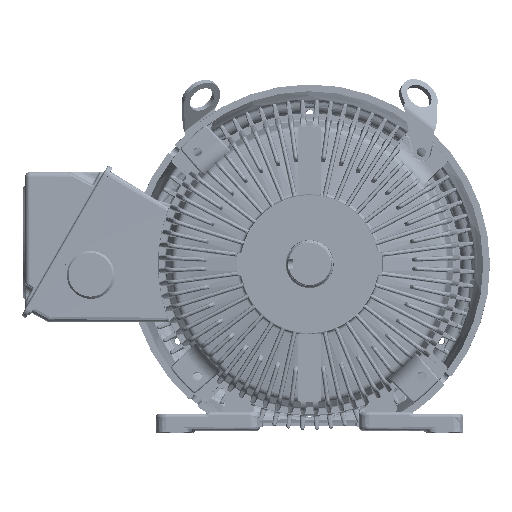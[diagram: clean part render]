
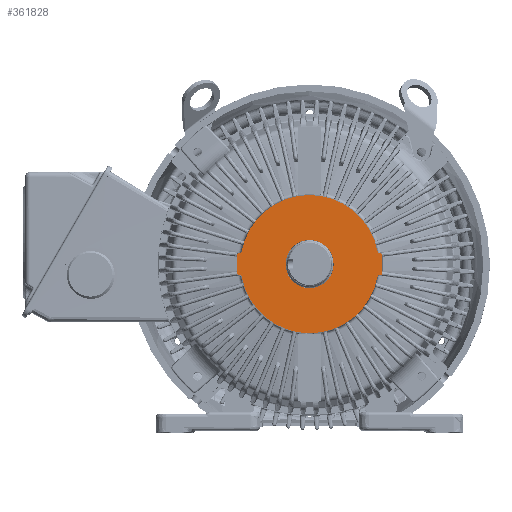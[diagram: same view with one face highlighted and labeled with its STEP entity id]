
A CAD part, top view. The second image highlights one B-rep face of the part: STEP entity #361828.
In plain terms, the highlighted planar face has unit normal (0, 0, 1) as drawn and (0, 0, -1) by its records, which use the part's own axes.
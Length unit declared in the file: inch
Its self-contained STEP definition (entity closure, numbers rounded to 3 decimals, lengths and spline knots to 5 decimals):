
#326655=CARTESIAN_POINT('',(0.,0.,-1.843));
#326656=DIRECTION('',(0.,0.,1.));
#326657=DIRECTION('',(-0.984,-0.18,0.));
#326658=AXIS2_PLACEMENT_3D('',#326655,#326656,#326657);
#326660=DIRECTION('',(0.,1.,0.));
#326661=VECTOR('',#326660,0.69026);
#326662=CARTESIAN_POINT('',(2.688,-0.34463,-1.843));
#326663=LINE('',#326662,#326661);
#326664=CARTESIAN_POINT('',(0.,0.,-1.843));
#326665=DIRECTION('',(0.,0.,1.));
#326666=DIRECTION('',(0.984,0.18,0.));
#326667=AXIS2_PLACEMENT_3D('',#326664,#326665,#326666);
#326669=DIRECTION('',(0.,-1.,0.));
#326670=VECTOR('',#326669,0.69026);
#326671=CARTESIAN_POINT('',(-2.688,0.34463,-1.843));
#326672=LINE('',#326671,#326670);
#326673=CARTESIAN_POINT('',(0.,0.,-1.843));
#326674=DIRECTION('',(0.,0.,1.));
#326675=DIRECTION('',(0.,1.,0.));
#326676=AXIS2_PLACEMENT_3D('',#326673,#326674,#326675);
#326678=CARTESIAN_POINT('',(0.,0.,-1.843));
#326679=DIRECTION('',(0.,0.,1.));
#326680=DIRECTION('',(0.,-1.,0.));
#326681=AXIS2_PLACEMENT_3D('',#326678,#326679,#326680);
#326692=CARTESIAN_POINT('',(2.58277,-0.47178,-1.843));
#326693=DIRECTION('',(0.,0.,-1.));
#326694=DIRECTION('',(-0.984,0.18,0.));
#326695=AXIS2_PLACEMENT_3D('',#326692,#326693,#326694);
#351583=DIRECTION('',(1.,-0.026,0.));
#351584=VECTOR('',#351583,0.04573);
#351585=CARTESIAN_POINT('',(-2.62665,-0.40861,-1.843));
#351586=LINE('',#351585,#351584);
#351598=CARTESIAN_POINT('',(-2.58258,-0.47278,-1.843));
#351599=DIRECTION('',(0.,0.,-1.));
#351600=DIRECTION('',(0.026,1.,0.));
#351601=AXIS2_PLACEMENT_3D('',#351598,#351599,#351600);
#351621=CARTESIAN_POINT('',(-2.625,-0.34563,-1.843));
#351622=DIRECTION('',(0.,0.,1.));
#351623=DIRECTION('',(-1.,0.,0.));
#351624=AXIS2_PLACEMENT_3D('',#351621,#351622,#351623);
#351688=CARTESIAN_POINT('',(-2.625,0.34463,-1.843));
#351689=DIRECTION('',(0.,0.,1.));
#351690=DIRECTION('',(-0.026,1.,0.));
#351691=AXIS2_PLACEMENT_3D('',#351688,#351689,#351690);
#351718=DIRECTION('',(-1.,-0.026,0.));
#351719=VECTOR('',#351718,0.04555);
#351720=CARTESIAN_POINT('',(-2.58112,0.4088,-1.843));
#351721=LINE('',#351720,#351719);
#351741=CARTESIAN_POINT('',(-2.58277,0.47178,-1.843));
#351742=DIRECTION('',(0.,0.,-1.));
#351743=DIRECTION('',(0.984,-0.18,0.));
#351744=AXIS2_PLACEMENT_3D('',#351741,#351742,#351743);
#355654=DIRECTION('',(-1.,0.026,0.));
#355655=VECTOR('',#355654,0.04573);
#355656=CARTESIAN_POINT('',(2.62665,0.40861,-1.843));
#355657=LINE('',#355656,#355655);
#355669=CARTESIAN_POINT('',(2.58258,0.47278,-1.843));
#355670=DIRECTION('',(0.,0.,-1.));
#355671=DIRECTION('',(-0.026,-1.,0.));
#355672=AXIS2_PLACEMENT_3D('',#355669,#355670,#355671);
#355692=CARTESIAN_POINT('',(2.625,0.34563,-1.843));
#355693=DIRECTION('',(0.,0.,1.));
#355694=DIRECTION('',(1.,0.,0.));
#355695=AXIS2_PLACEMENT_3D('',#355692,#355693,#355694);
#355759=CARTESIAN_POINT('',(2.625,-0.34463,-1.843));
#355760=DIRECTION('',(0.,0.,1.));
#355761=DIRECTION('',(0.026,-1.,0.));
#355762=AXIS2_PLACEMENT_3D('',#355759,#355760,#355761);
#355790=DIRECTION('',(1.,0.026,0.));
#355791=VECTOR('',#355790,0.04555);
#355792=CARTESIAN_POINT('',(2.58112,-0.4088,-1.843));
#355793=LINE('',#355792,#355791);
#357888=CARTESIAN_POINT('',(-2.688,0.34463,-1.843));
#357889=CARTESIAN_POINT('',(-2.688,-0.34563,-1.843));
#357890=VERTEX_POINT('',#357888);
#357891=VERTEX_POINT('',#357889);
#357892=CARTESIAN_POINT('',(2.688,-0.34463,-1.843));
#357893=CARTESIAN_POINT('',(2.688,0.34563,-1.843));
#357894=VERTEX_POINT('',#357892);
#357895=VERTEX_POINT('',#357893);
#358202=CARTESIAN_POINT('',(-2.62665,-0.40861,-1.843));
#358203=VERTEX_POINT('',#358202);
#358204=CARTESIAN_POINT('',(-2.58093,-0.4098,-1.843));
#358205=VERTEX_POINT('',#358204);
#358206=CARTESIAN_POINT('',(-2.58112,0.4088,-1.843));
#358207=CARTESIAN_POINT('',(-2.62665,0.40761,-1.843));
#358208=VERTEX_POINT('',#358206);
#358209=VERTEX_POINT('',#358207);
#358211=CARTESIAN_POINT('',(-2.52061,-0.46144,
-1.843));
#358213=VERTEX_POINT('',#358211);
#358215=CARTESIAN_POINT('',(-2.52079,0.46046,
-1.843));
#358217=VERTEX_POINT('',#358215);
#358219=CARTESIAN_POINT('',(2.62665,0.40861,-1.843));
#358220=VERTEX_POINT('',#358219);
#358221=CARTESIAN_POINT('',(2.58093,0.4098,-1.843));
#358222=VERTEX_POINT('',#358221);
#358223=CARTESIAN_POINT('',(2.58112,-0.4088,-1.843));
#358224=CARTESIAN_POINT('',(2.62665,-0.40761,-1.843));
#358225=VERTEX_POINT('',#358223);
#358226=VERTEX_POINT('',#358224);
#358228=CARTESIAN_POINT('',(2.52061,0.46144,
-1.843));
#358230=VERTEX_POINT('',#358228);
#358232=CARTESIAN_POINT('',(2.52079,-0.46046,
-1.843));
#358234=VERTEX_POINT('',#358232);
#361462=CARTESIAN_POINT('',(0.,0.8915,-1.843));
#361463=CARTESIAN_POINT('',(0.,-0.8915,-1.843));
#361464=VERTEX_POINT('',#361462);
#361465=VERTEX_POINT('',#361463);
#361785=CARTESIAN_POINT('',(0.,0.,-1.843));
#361786=DIRECTION('',(0.,0.,-1.));
#361787=DIRECTION('',(0.,-1.,0.));
#361788=AXIS2_PLACEMENT_3D('',#361785,#361786,#361787);
#361789=PLANE('',#361788);
#361790=ORIENTED_EDGE('',*,*,#361648,.T.);
#361792=ORIENTED_EDGE('',*,*,#361791,.T.);
#361794=ORIENTED_EDGE('',*,*,#361793,.T.);
#361796=ORIENTED_EDGE('',*,*,#361795,.T.);
#361798=ORIENTED_EDGE('',*,*,#361797,.T.);
#361800=ORIENTED_EDGE('',*,*,#361799,.T.);
#361802=ORIENTED_EDGE('',*,*,#361801,.T.);
#361804=ORIENTED_EDGE('',*,*,#361803,.T.);
#361805=ORIENTED_EDGE('',*,*,#361506,.T.);
#361807=ORIENTED_EDGE('',*,*,#361806,.T.);
#361809=ORIENTED_EDGE('',*,*,#361808,.T.);
#361811=ORIENTED_EDGE('',*,*,#361810,.T.);
#361813=ORIENTED_EDGE('',*,*,#361812,.T.);
#361815=ORIENTED_EDGE('',*,*,#361814,.T.);
#361817=ORIENTED_EDGE('',*,*,#361816,.T.);
#361819=ORIENTED_EDGE('',*,*,#361818,.T.);
#361820=EDGE_LOOP('',(#361790,#361792,#361794,#361796,#361798,#361800,#361802,
#361804,#361805,#361807,#361809,#361811,#361813,#361815,#361817,#361819));
#361821=FACE_OUTER_BOUND('',#361820,.F.);
#361823=ORIENTED_EDGE('',*,*,#361822,.F.);
#361825=ORIENTED_EDGE('',*,*,#361824,.F.);
#361826=EDGE_LOOP('',(#361823,#361825));
#361827=FACE_BOUND('',#361826,.F.);
#361828=ADVANCED_FACE('',(#361821,#361827),#361789,.T.);
#326659=CIRCLE('',#326658,2.5625);
#326668=CIRCLE('',#326667,2.5625);
#326677=CIRCLE('',#326676,0.8915);
#326682=CIRCLE('',#326681,0.8915);
#326696=CIRCLE('',#326695,0.063);
#351602=CIRCLE('',#351601,0.063);
#351625=CIRCLE('',#351624,0.063);
#351692=CIRCLE('',#351691,0.063);
#351745=CIRCLE('',#351744,0.063);
#355673=CIRCLE('',#355672,0.063);
#355696=CIRCLE('',#355695,0.063);
#355763=CIRCLE('',#355762,0.063);
#361506=EDGE_CURVE('',#358230,#358217,#326668,.T.);
#361648=EDGE_CURVE('',#358213,#358234,#326659,.T.);
#361791=EDGE_CURVE('',#358234,#358225,#326696,.T.);
#361793=EDGE_CURVE('',#358225,#358226,#355793,.T.);
#361795=EDGE_CURVE('',#358226,#357894,#355763,.T.);
#361797=EDGE_CURVE('',#357894,#357895,#326663,.T.);
#361799=EDGE_CURVE('',#357895,#358220,#355696,.T.);
#361801=EDGE_CURVE('',#358220,#358222,#355657,.T.);
#361803=EDGE_CURVE('',#358222,#358230,#355673,.T.);
#361806=EDGE_CURVE('',#358217,#358208,#351745,.T.);
#361808=EDGE_CURVE('',#358208,#358209,#351721,.T.);
#361810=EDGE_CURVE('',#358209,#357890,#351692,.T.);
#361812=EDGE_CURVE('',#357890,#357891,#326672,.T.);
#361814=EDGE_CURVE('',#357891,#358203,#351625,.T.);
#361816=EDGE_CURVE('',#358203,#358205,#351586,.T.);
#361818=EDGE_CURVE('',#358205,#358213,#351602,.T.);
#361822=EDGE_CURVE('',#361464,#361465,#326677,.T.);
#361824=EDGE_CURVE('',#361465,#361464,#326682,.T.);
